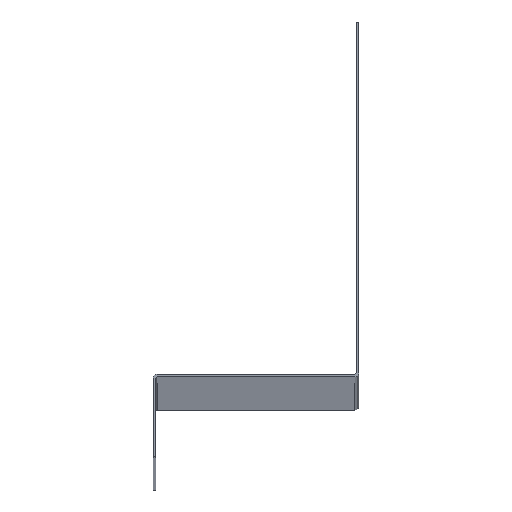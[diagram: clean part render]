
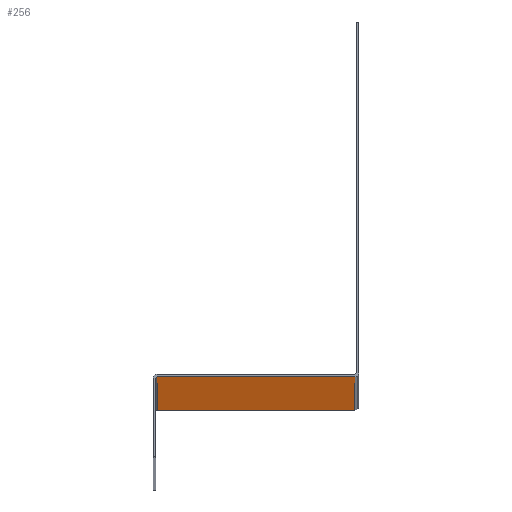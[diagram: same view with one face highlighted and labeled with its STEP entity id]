
A CAD part, top view. The second image highlights one B-rep face of the part: STEP entity #256.
In plain terms, the highlighted planar face has unit normal (0, -1, 0).
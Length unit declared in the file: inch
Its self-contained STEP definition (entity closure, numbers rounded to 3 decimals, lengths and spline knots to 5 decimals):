
#16=PLANE('',#296);
#28=FACE_OUTER_BOUND('',#42,.T.);
#42=EDGE_LOOP('',(#189,#190,#191,#192));
#58=LINE('',#406,#86);
#60=LINE('',#412,#88);
#61=LINE('',#414,#89);
#62=LINE('',#415,#90);
#86=VECTOR('',#330,0.3937);
#88=VECTOR('',#336,0.3937);
#89=VECTOR('',#337,0.3937);
#90=VECTOR('',#338,0.3937);
#124=VERTEX_POINT('',#403);
#125=VERTEX_POINT('',#405);
#127=VERTEX_POINT('',#411);
#128=VERTEX_POINT('',#413);
#149=EDGE_CURVE('',#124,#125,#58,.T.);
#152=EDGE_CURVE('',#124,#127,#60,.T.);
#153=EDGE_CURVE('',#128,#127,#61,.T.);
#154=EDGE_CURVE('',#125,#128,#62,.T.);
#189=ORIENTED_EDGE('',*,*,#149,.F.);
#190=ORIENTED_EDGE('',*,*,#152,.T.);
#191=ORIENTED_EDGE('',*,*,#153,.F.);
#192=ORIENTED_EDGE('',*,*,#154,.F.);
#256=ADVANCED_FACE('',(#28),#16,.T.);
#296=AXIS2_PLACEMENT_3D('',#410,#334,#335);
#330=DIRECTION('',(0.,0.,1.));
#334=DIRECTION('center_axis',(0.,-1.,0.));
#335=DIRECTION('ref_axis',(1.,0.,0.));
#336=DIRECTION('',(1.,0.,0.));
#337=DIRECTION('',(0.,0.,-1.));
#338=DIRECTION('',(1.,0.,0.));
#403=CARTESIAN_POINT('',(0.0071,0.5,0.));
#405=CARTESIAN_POINT('',(0.0071,0.5,120.));
#406=CARTESIAN_POINT('',(0.0071,0.5,0.));
#410=CARTESIAN_POINT('Origin',(0.,0.5,0.));
#411=CARTESIAN_POINT('',(1.248,0.5,0.));
#412=CARTESIAN_POINT('',(0.,0.5,0.));
#413=CARTESIAN_POINT('',(1.248,0.5,120.));
#414=CARTESIAN_POINT('',(1.248,0.5,0.));
#415=CARTESIAN_POINT('',(0.,0.5,120.));
